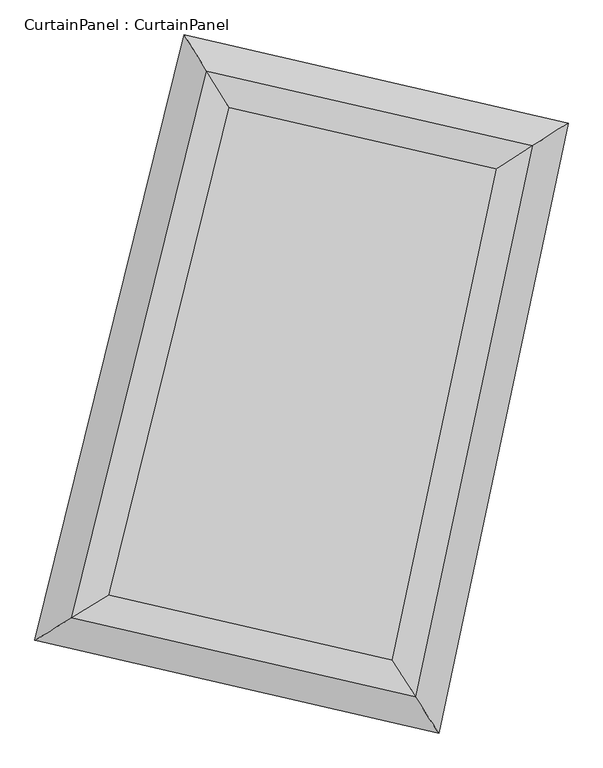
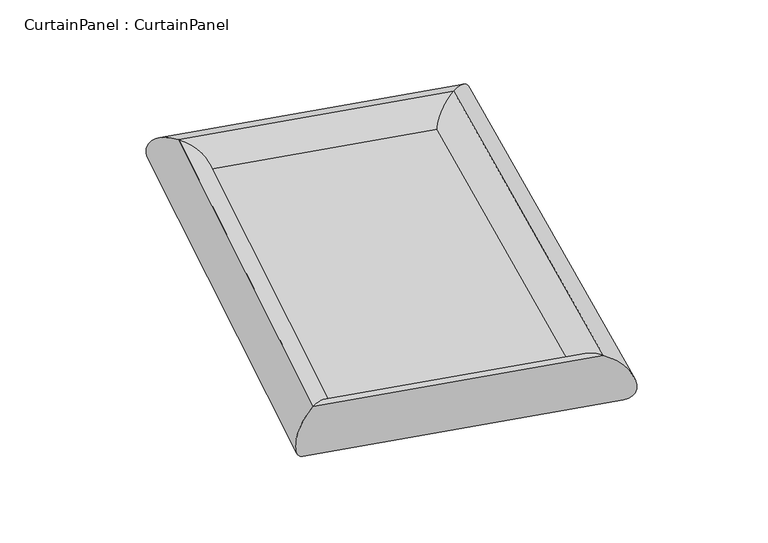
"""IFC4 building model written with IfcOpenShell, lengths in millimetres: plate geometry, CurtainPanel : CurtainPanel."""

import ifcopenshell
import ifcopenshell.guid

model = None  # the IFC model being written
_history = None  # IfcOwnerHistory: only IFC2X3 demands one
_inside = {}  # id of a spatial element -> (the spatial element, [elements in it])
_under = {}  # id of a project, library or spatial element -> (it, [spatial elements below it])
_declared = {}  # id of a project -> (the project, [libraries it declares])
_typed = {}  # id of a type object -> (the type object, [elements of that type])
_made_of = {}  # id of a material, layer set ... -> (it, [elements and type objects made of it])


def new_model(schema):
    """Start an empty IFC model of exactly this schema.

    Asked for "IFC4X3", IfcOpenShell would pick the latest addendum, in which some entities
    have other attributes; the version numbers below select the first issue.
    IFC2X3 requires an IfcOwnerHistory on every rooted entity: one is made here for all.
    """
    global model, _history
    if schema == "IFC4X3":
        model = ifcopenshell.file(schema_version=(4, 3, 0, 0))
    else:
        model = ifcopenshell.file(schema=schema)
    _inside.clear()
    _under.clear()
    _declared.clear()
    _typed.clear()
    _made_of.clear()
    _history = None
    if model.schema == "IFC2X3":
        org = make("IfcOrganization", Name="unknown")
        user = make(
            "IfcPersonAndOrganization",
            ThePerson=make("IfcPerson", FamilyName="unknown"),
            TheOrganization=org,
        )
        app = make(
            "IfcApplication",
            ApplicationDeveloper=org,
            Version="unknown",
            ApplicationFullName="unknown",
            ApplicationIdentifier="unknown",
        )
        _history = make(
            "IfcOwnerHistory",
            OwningUser=user,
            OwningApplication=app,
            ChangeAction="ADDED",
            CreationDate=0,
        )
    return model


def make(cls, **values):
    """One entity of the class cls with the attributes given. An attribute that is None is left unset."""
    return model.create_entity(
        cls, **{name: value for name, value in values.items() if value is not None}
    )


def rooted(cls, **values):
    """An entity with a GlobalId (a new one), such as an element, a storey or a relation."""
    return make(cls, GlobalId=ifcopenshell.guid.new(), OwnerHistory=_history, **values)


def si_unit(unit_type, name, prefix=None):
    """IfcSIUnit, for example si_unit("LENGTHUNIT", "METRE", prefix="MILLI")."""
    return make("IfcSIUnit", UnitType=unit_type, Prefix=prefix, Name=name)


def assignment(units):
    """IfcUnitAssignment: the units of a project."""
    return None if units is None else make("IfcUnitAssignment", Units=units)


def point(xyz):
    """IfcCartesianPoint."""
    return None if xyz is None else make("IfcCartesianPoint", Coordinates=xyz)


def direction(xyz):
    """IfcDirection."""
    return None if xyz is None else make("IfcDirection", DirectionRatios=xyz)


def frame(location, z_axis=None, x_axis=None):
    """IfcAxis2Placement3D, a coordinate frame: its origin and axes. An axis left out is left unset."""
    return make(
        "IfcAxis2Placement3D",
        Location=point(location),
        Axis=direction(z_axis),
        RefDirection=direction(x_axis),
    )


def origin():
    """The frame at (0, 0, 0) with its axes left unset."""
    return frame((0.0, 0.0, 0.0))


def origin_with_axes():
    """The frame at (0, 0, 0) with the z axis (0, 0, 1) and the x axis (1, 0, 0) written out."""
    return frame((0.0, 0.0, 0.0), z_axis=(0.0, 0.0, 1.0), x_axis=(1.0, 0.0, 0.0))


def place(relative_to, where):
    """IfcLocalPlacement: puts the frame where relative to a parent placement (None: the world)."""
    return make(
        "IfcLocalPlacement", PlacementRelTo=relative_to, RelativePlacement=where
    )


def context(
    kind, dimensions, precision=None, world=None, true_north=None, identifier=None
):
    """IfcGeometricRepresentationContext, for example the 3D "Model" context."""
    return make(
        "IfcGeometricRepresentationContext",
        ContextIdentifier=identifier,
        ContextType=kind,
        CoordinateSpaceDimension=dimensions,
        Precision=precision,
        WorldCoordinateSystem=world,
        TrueNorth=true_north,
    )


def project(units=None, contexts=None):
    """IfcProject with its units and contexts."""
    return rooted(
        "IfcProject",
        Name="project",
        RepresentationContexts=contexts,
        UnitsInContext=assignment(units),
    )


def spatial(cls, under=None, at=None, **own):
    """A site, building, storey or space (cls), placed at a placement, below another one or the project."""
    s = rooted(cls, ObjectPlacement=at, **own)
    if under is not None:
        _under.setdefault(under.id(), (under, []))[1].append(s)
    return s


def polyline(points):
    """IfcPolyline through the points."""
    return make("IfcPolyline", Points=[point(p) for p in points])


def ellipse_curve(where, semi_axis1, semi_axis2):
    """IfcEllipse in the frame where."""
    return make(
        "IfcEllipse", Position=where, SemiAxis1=semi_axis1, SemiAxis2=semi_axis2
    )


def outline(outer, holes=None, kind="AREA"):
    """IfcArbitraryClosedProfileDef: a profile drawn as a closed curve; with holes, ...WithVoids."""
    if holes is None:
        return make("IfcArbitraryClosedProfileDef", ProfileType=kind, OuterCurve=outer)
    return make(
        "IfcArbitraryProfileDefWithVoids",
        ProfileType=kind,
        OuterCurve=outer,
        InnerCurves=holes,
    )


def extrude(swept, where, along, depth):
    """IfcExtrudedAreaSolid: the profile swept, set in the frame where, extruded along a direction by depth."""
    return make(
        "IfcExtrudedAreaSolid",
        SweptArea=swept,
        Position=where,
        ExtrudedDirection=direction(along),
        Depth=depth,
    )


def shape(context_of_items, identifier, shape_type, items):
    """IfcShapeRepresentation: the items that make up one representation, for example the "Body"."""
    return make(
        "IfcShapeRepresentation",
        ContextOfItems=context_of_items,
        RepresentationIdentifier=identifier,
        RepresentationType=shape_type,
        Items=items,
    )


def source(mapping_origin, context_of_items, identifier, shape_type, items):
    """IfcRepresentationMap: a shape defined once, which mapped items show again and again."""
    return make(
        "IfcRepresentationMap",
        MappingOrigin=mapping_origin,
        MappedRepresentation=shape(context_of_items, identifier, shape_type, items),
    )


def transform(
    local_origin,
    x_axis=None,
    y_axis=None,
    z_axis=None,
    scale=None,
    scale2=None,
    scale3=None,
    uniform=True,
):
    """IfcCartesianTransformationOperator3D, or its non-uniform kind. x_axis, y_axis, z_axis: its Axis1, 2, 3."""
    if uniform:
        return make(
            "IfcCartesianTransformationOperator3D",
            Axis1=direction(x_axis),
            Axis2=direction(y_axis),
            LocalOrigin=point(local_origin),
            Scale=scale,
            Axis3=direction(z_axis),
        )
    return make(
        "IfcCartesianTransformationOperator3DnonUniform",
        Axis1=direction(x_axis),
        Axis2=direction(y_axis),
        LocalOrigin=point(local_origin),
        Scale=scale,
        Axis3=direction(z_axis),
        Scale2=scale2,
        Scale3=scale3,
    )


def mapped(mapping_source, mapping_target):
    """IfcMappedItem: shows the shape of a source again, moved by a transform."""
    return make(
        "IfcMappedItem", MappingSource=mapping_source, MappingTarget=mapping_target
    )


def made_of(thing, what):
    """Note that an element or type object is made of a material, layer set ...; save() writes the relation."""
    if what is not None:
        _made_of.setdefault(what.id(), (what, []))[1].append(thing)
    return thing


def element(
    cls,
    number,
    at=None,
    inside=None,
    cuts=None,
    type_object=None,
    material=None,
    context=None,
    identifier="Body",
    shape_type=None,
    held_by="IfcProductDefinitionShape",
    body=None,
    shapes=None,
    **own,
):
    """One element of the class cls, such as IfcWall. Its Tag is "e" and its number.

    at: its placement. inside: the storey or other place that contains it. cuts: it is an
    opening in that element (IfcRelVoidsElement). A single representation is given by context,
    identifier, shape_type and body (its items); several are given by shapes. held_by: the class
    of the entity that holds the representations. save() writes the other relations.
    """
    e = rooted(cls, Tag="e%d" % number, ObjectPlacement=at, **own)
    if body is not None:
        shapes = [shape(context, identifier, shape_type, body)]
    if shapes is not None:
        e.Representation = make(held_by, Representations=shapes)
    if inside is not None:
        _inside.setdefault(inside.id(), (inside, []))[1].append(e)
    if cuts is not None:
        rooted(
            "IfcRelVoidsElement", RelatingBuildingElement=cuts, RelatedOpeningElement=e
        )
    if type_object is not None:
        _typed.setdefault(type_object.id(), (type_object, []))[1].append(e)
    return made_of(e, material)


def aggregate(whole, parts):
    """IfcRelAggregates: a whole, such as a stair, and the parts it consists of."""
    return rooted("IfcRelAggregates", RelatingObject=whole, RelatedObjects=parts)


def save(model, path):
    """Write the relations noted so far, then the file.

    IfcRelAggregates (storeys below a building ...), IfcRelContainedInSpatialStructure (elements
    in a storey), IfcRelDefinesByType, IfcRelAssociatesMaterial and IfcRelDeclares: one each for
    every whole, place, type object, material and project.
    """
    for whole, parts in _under.values():
        aggregate(whole, parts)
    for where, things in _inside.values():
        rooted(
            "IfcRelContainedInSpatialStructure",
            RelatedElements=things,
            RelatingStructure=where,
        )
    for kind, things in _typed.values():
        rooted("IfcRelDefinesByType", RelatedObjects=things, RelatingType=kind)
    for what, things in _made_of.values():
        rooted("IfcRelAssociatesMaterial", RelatedObjects=things, RelatingMaterial=what)
    for by, libraries in _declared.values():
        rooted("IfcRelDeclares", RelatingContext=by, RelatedDefinitions=libraries)
    model.write(path)


def cylinder_surface(at, radius):
    """IfcCylindricalSurface: all points at the distance radius from the z axis of the frame at."""
    return make("IfcCylindricalSurface", Position=at, Radius=radius)


def advanced_brep(points, edges, surfaces, faces):
    """IfcAdvancedBrep: a solid bounded by faces that lie on surfaces and meet in shared edges.

    An edge is (start, end): straight between two places in points (the first is 0);
    or (start, end, curve); or (start, end, curve, False) where it runs against its curve.
    A face is (place in surfaces, loops), or (place, loops, False) where it looks against
    its surface's normal. A loop lists edges by number (the first is 1), with a minus sign
    where the edge is run from its end to its start. The first loop is the outer one.
    """
    corners = [point(p) for p in points]
    vertices = [make("IfcVertexPoint", VertexGeometry=c) for c in corners]
    made = []
    for start, end, *more in edges:
        made.append(
            make(
                "IfcEdgeCurve",
                EdgeStart=vertices[start],
                EdgeEnd=vertices[end],
                EdgeGeometry=more[0] if more else make("IfcPolyline", Points=[corners[start], corners[end]]),
                SameSense=more[1] if len(more) > 1 else True,
            )
        )
    hull = []
    for where, loops, *sense in faces:
        bounds = []
        for j, loop in enumerate(loops):
            ring = [make("IfcOrientedEdge", EdgeElement=made[abs(k) - 1], Orientation=k > 0) for k in loop]
            bounds.append(
                make(
                    "IfcFaceOuterBound" if j == 0 else "IfcFaceBound",
                    Bound=make("IfcEdgeLoop", EdgeList=ring),
                    Orientation=True,
                )
            )
        hull.append(make("IfcAdvancedFace", Bounds=bounds, FaceSurface=surfaces[where], SameSense=sense[0] if sense else True))
    return make("IfcAdvancedBrep", Outer=make("IfcClosedShell", CfsFaces=hull))


def curtainpanel_curtainpanel_8103cddd(model_context):
    return source(origin(), model_context, "Body", "SolidModel", [
        extrude(outline(polyline([(2879.0278217, 2879.0278217), (3851.0466149, 6818.8741973), (6200.3950169, 6279.7901249), (5357.5305465, 2310.3078561), (2879.0278217, 2879.0278217)])), origin_with_axes(), (0.0, 0.0, 1.0), 20.0),
        advanced_brep(
        [(2879.0278217, 2879.0278217, -220.0), (2879.0278217, 2879.0278217, 220.0), (5357.5305465, 2310.3078561, 220.0), (5357.5305465, 2310.3078561, -220.0), (6200.3950169, 6279.7901249, 220.0), (6200.3950169, 6279.7901249, -220.0), (3851.0466149, 6818.8741973, 220.0), (3851.0466149, 6818.8741973, -220.0)],
        [
            (0, 1, ellipse_curve(frame((2879.0278217, 2879.0278217, 0.0), z_axis=(0.524116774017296, -0.8516464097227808, 0.0), x_axis=(-0.8516464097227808, -0.524116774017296, 0.0)), 313.6984299, 220.0)),
            (1, 2),
            (2, 3, ellipse_curve(frame((5357.5305465, 2310.3078561, 0.0), z_axis=(-0.8429755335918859, -0.5379519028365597, 0.0), x_axis=(-0.5379519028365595, 0.842975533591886, 0.0)), 313.6984299, 220.0)),
            (3, 0),
            (1, 0, ellipse_curve(frame((2879.0278217, 2879.0278217, 0.0), z_axis=(0.524116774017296, -0.8516464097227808, 0.0), x_axis=(-0.8516464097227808, -0.524116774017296, 0.0)), 313.6984299, 220.0)),
            (3, 2, ellipse_curve(frame((5357.5305465, 2310.3078561, 0.0), z_axis=(-0.8429755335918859, -0.5379519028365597, 0.0), x_axis=(-0.5379519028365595, 0.842975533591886, 0.0)), 313.6984299, 220.0)),
            (2, 4),
            (4, 5, ellipse_curve(frame((6200.3950169, 6279.7901249, 0.0), z_axis=(0.5379519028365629, -0.8429755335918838, 0.0), x_axis=(-0.8429755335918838, -0.5379519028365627, 0.0)), 308.6177542, 220.0)),
            (5, 3),
            (5, 4, ellipse_curve(frame((6200.3950169, 6279.7901249, 0.0), z_axis=(0.5379519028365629, -0.8429755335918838, 0.0), x_axis=(-0.8429755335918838, -0.5379519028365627, 0.0)), 308.6177542, 220.0)),
            (4, 6),
            (6, 7, ellipse_curve(frame((3851.0466149, 6818.8741973, 0.0), z_axis=(0.8516464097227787, 0.5241167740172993, 0.0), x_axis=(0.5241167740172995, -0.8516464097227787, 0.0)), 308.6177542, 220.0)),
            (7, 5),
            (7, 6, ellipse_curve(frame((3851.0466149, 6818.8741973, 0.0), z_axis=(0.8516464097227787, 0.5241167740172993, 0.0), x_axis=(0.5241167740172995, -0.8516464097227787, 0.0)), 308.6177542, 220.0)),
            (6, 1),
            (0, 7),
        ],
        [
            cylinder_surface(frame((2879.0278217, 2879.0278217, 0.0), z_axis=(-0.9746697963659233, 0.22364880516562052, 0.0), x_axis=(0.22364880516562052, 0.9746697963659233, 0.0)), 220.0),
            cylinder_surface(frame((5357.5305465, 2310.3078561, 0.0), z_axis=(-0.20770537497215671, -0.9781914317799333, 0.0), x_axis=(-0.9781914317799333, 0.20770537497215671, 0.0)), 220.0),
            cylinder_surface(frame((6200.3950169, 6279.7901249, 0.0), z_axis=(0.9746697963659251, -0.223648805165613, 0.0), x_axis=(-0.223648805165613, -0.9746697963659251, 0.0)), 220.0),
            cylinder_surface(frame((3851.0466149, 6818.8741973, 0.0), z_axis=(0.2395326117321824, 0.9708883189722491, 0.0), x_axis=(0.9708883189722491, -0.2395326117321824, 0.0)), 220.0),
        ],
        [
            (0, [[1, 2, 3, 4]]),
            (0, [[5, -4, 6, -2]]),
            (1, [[-3, 7, 8, 9]]),
            (1, [[-6, -9, 10, -7]]),
            (2, [[-8, 11, 12, 13]]),
            (2, [[-10, -13, 14, -11]]),
            (3, [[-12, 15, -1, 16]]),
            (3, [[-14, -16, -5, -15]]),
        ],
    ),
    ])


if __name__ == "__main__":
    model = new_model("IFC4")
    model_context = context("Model", 3, world=origin())
    ifc_project = project(units=[si_unit("LENGTHUNIT", "METRE", prefix="MILLI")], contexts=[model_context])
    site = spatial("IfcSite", under=ifc_project)
    building = spatial("IfcBuilding", under=site)
    placement = place(None, origin())
    curtainpanel_curtainpanel_shape = curtainpanel_curtainpanel_8103cddd(model_context)
    element("IfcPlate", 1, ObjectType="CurtainPanel : CurtainPanel", at=placement, inside=building, context=model_context, shape_type="MappedRepresentation", body=[
        mapped(curtainpanel_curtainpanel_shape, transform((0.0, 0.0, 0.0), x_axis=(1.0, 0.0, 0.0), y_axis=(0.0, 1.0, 0.0), z_axis=(0.0, 0.0, 1.0))),
    ])
    save(model, "model.ifc")
